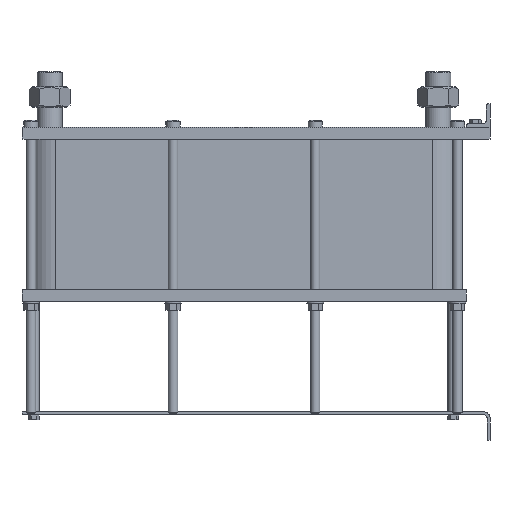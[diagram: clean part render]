
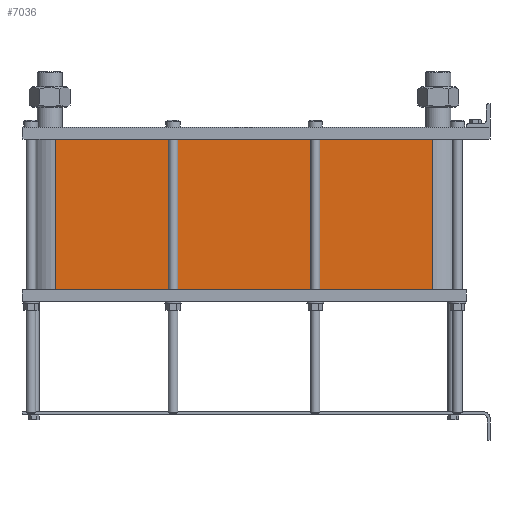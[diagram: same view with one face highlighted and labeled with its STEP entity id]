
A CAD part, left-side view. The second image highlights one B-rep face of the part: STEP entity #7036.
In plain terms, the highlighted planar face has unit normal (-1, 0, 0).
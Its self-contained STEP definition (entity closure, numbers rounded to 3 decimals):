
#999=LINE('',#15640,#1553);
#1031=LINE('',#15723,#1585);
#1032=LINE('',#15726,#1586);
#1033=LINE('',#15727,#1587);
#1553=VECTOR('',#9658,10.);
#1585=VECTOR('',#9736,10.);
#1586=VECTOR('',#9741,10.);
#1587=VECTOR('',#9742,10.);
#2117=FACE_OUTER_BOUND('',#2671,.T.);
#2671=EDGE_LOOP('',(#6246,#6247,#6248,#6249));
#3527=VERTEX_POINT('',#15634);
#3529=VERTEX_POINT('',#15638);
#3556=VERTEX_POINT('',#15720);
#3557=VERTEX_POINT('',#15722);
#4425=EDGE_CURVE('',#3529,#3527,#999,.T.);
#4466=EDGE_CURVE('',#3557,#3556,#1031,.T.);
#4468=EDGE_CURVE('',#3527,#3556,#1032,.T.);
#4469=EDGE_CURVE('',#3557,#3529,#1033,.T.);
#6246=ORIENTED_EDGE('',*,*,#4468,.F.);
#6247=ORIENTED_EDGE('',*,*,#4425,.F.);
#6248=ORIENTED_EDGE('',*,*,#4469,.F.);
#6249=ORIENTED_EDGE('',*,*,#4466,.T.);
#6608=PLANE('',#7812);
#7036=ADVANCED_FACE('',(#2117),#6608,.T.);
#7812=AXIS2_PLACEMENT_3D('',#15725,#9739,#9740);
#9658=DIRECTION('',(0.,0.,-1.));
#9736=DIRECTION('',(0.,0.,-1.));
#9739=DIRECTION('center_axis',(-1.,0.,0.));
#9740=DIRECTION('ref_axis',(0.,1.,0.));
#9741=DIRECTION('',(0.,1.,0.));
#9742=DIRECTION('',(0.,-1.,0.));
#15634=CARTESIAN_POINT('',(-72.,97.5,-254.2));
#15638=CARTESIAN_POINT('',(-72.,97.5,0.));
#15640=CARTESIAN_POINT('',(-72.,97.5,0.));
#15720=CARTESIAN_POINT('',(-72.,733.5,-254.2));
#15722=CARTESIAN_POINT('',(-72.,733.5,0.));
#15723=CARTESIAN_POINT('',(-72.,733.5,0.));
#15725=CARTESIAN_POINT('Origin',(-72.,97.5,0.));
#15726=CARTESIAN_POINT('',(-72.,256.5,-254.2));
#15727=CARTESIAN_POINT('',(-72.,733.5,0.));
